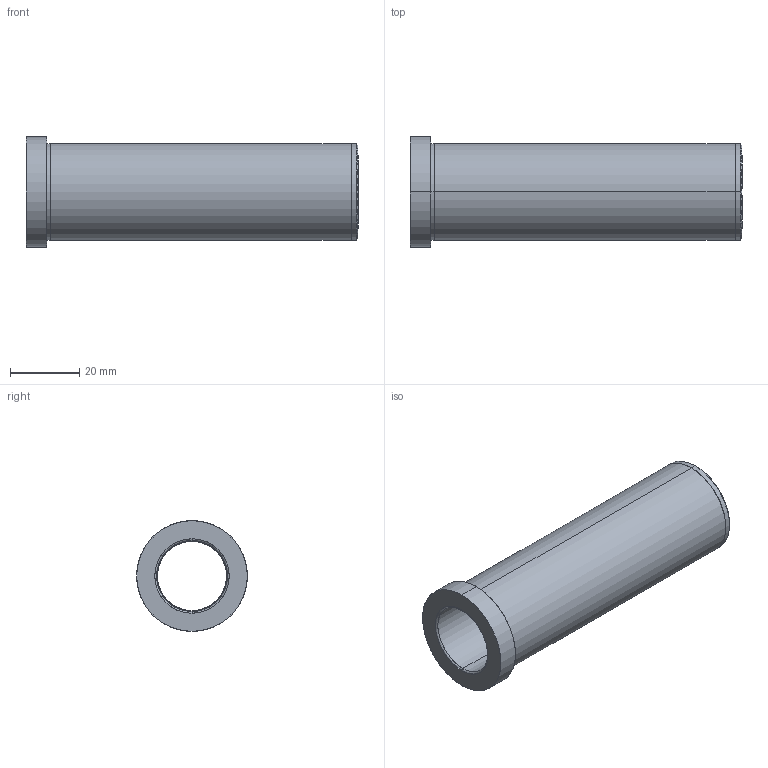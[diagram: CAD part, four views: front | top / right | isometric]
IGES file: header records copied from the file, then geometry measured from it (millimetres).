
Start section: SolidWorks IGES file using analytic representation for surfaces
Global section: file name: C:\Documents and Settings\kalite-mail\Desktop\IGS\D20\D20 - 20x96.IGS; native system: SolidWorks 2008; preprocessor: SolidWorks 2008; author: kalite-mail; date: 080617.114139; units: millimetre
Bounding box: 96 x 32 x 32 mm (x, y, z)
Surface area: 15542.6 mm2 (no closed solid volume)
Topology: 0 solids, 0 shells, 24 faces, 680 edges, 680 vertices
Faces by surface type: revolution 14, bspline 10
